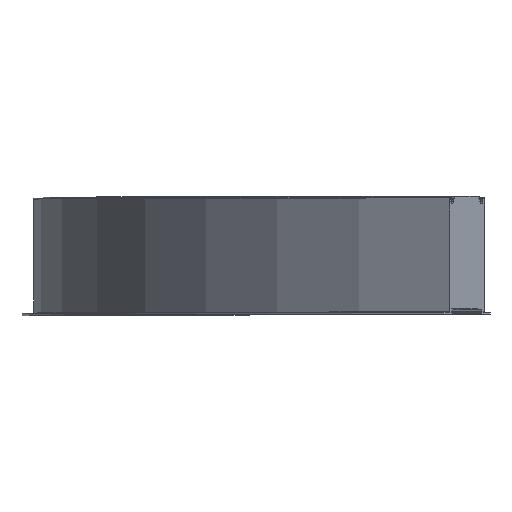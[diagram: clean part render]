
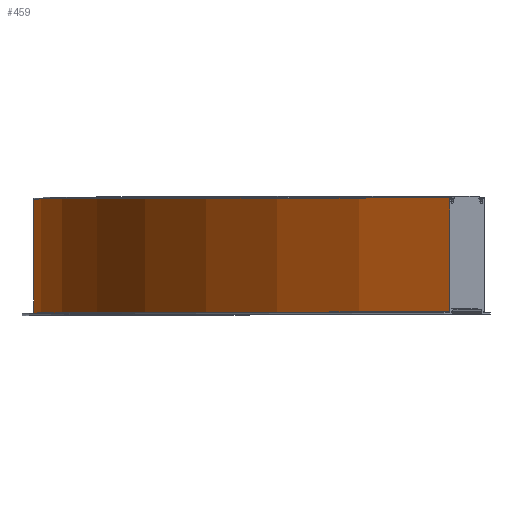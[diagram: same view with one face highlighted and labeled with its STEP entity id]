
A CAD part, top view. The second image highlights one B-rep face of the part: STEP entity #459.
In plain terms, the highlighted cylindrical face has radius 567.252 mm (diameter 1134.5 mm), a partial arc.
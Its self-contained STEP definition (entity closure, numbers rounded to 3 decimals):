
#19 = DIRECTION ( 'NONE',  ( 0., -1., 0. ) ) ;
#28 = CARTESIAN_POINT ( 'NONE',  ( -23.5, 79.5, 0. ) ) ;
#71 = CYLINDRICAL_SURFACE ( 'NONE', #189, 567.252 ) ;
#103 = DIRECTION ( 'NONE',  ( 0., -1., 0. ) ) ;
#132 = CIRCLE ( 'NONE', #905, 567.252 ) ;
#138 = EDGE_CURVE ( 'NONE', #729, #1705, #1887, .T. ) ;
#168 = ORIENTED_EDGE ( 'NONE', *, *, #1307, .F. ) ;
#181 = VECTOR ( 'NONE', #19, 1000. ) ;
#189 = AXIS2_PLACEMENT_3D ( 'NONE', #722, #1149, #1314 ) ;
#218 = VERTEX_POINT ( 'NONE', #1909 ) ;
#220 = ORIENTED_EDGE ( 'NONE', *, *, #138, .T. ) ;
#250 = EDGE_CURVE ( 'NONE', #1705, #218, #132, .T. ) ;
#252 = CARTESIAN_POINT ( 'NONE',  ( -23.5, 1.8, 0. ) ) ;
#405 = DIRECTION ( 'NONE',  ( -1., 0., 0. ) ) ;
#423 = LINE ( 'NONE', #1192, #181 ) ;
#459 = ADVANCED_FACE ( 'NONE', ( #1695 ), #71, .T. ) ;
#550 = EDGE_CURVE ( 'NONE', #729, #1417, #953, .T. ) ;
#572 = CARTESIAN_POINT ( 'NONE',  ( 260.126, 79.5, 491.255 ) ) ;
#722 = CARTESIAN_POINT ( 'NONE',  ( 543.752, 0., 0. ) ) ;
#729 = VERTEX_POINT ( 'NONE', #28 ) ;
#905 = AXIS2_PLACEMENT_3D ( 'NONE', #1774, #1442, #405 ) ;
#910 = ORIENTED_EDGE ( 'NONE', *, *, #250, .T. ) ;
#953 = CIRCLE ( 'NONE', #1576, 567.252 ) ;
#1127 = CARTESIAN_POINT ( 'NONE',  ( 543.752, 79.5, 0. ) ) ;
#1142 = DIRECTION ( 'NONE',  ( 0., 1., 0. ) ) ;
#1149 = DIRECTION ( 'NONE',  ( 0., 1., 0. ) ) ;
#1165 = CARTESIAN_POINT ( 'NONE',  ( -23.5, 1.8, 0. ) ) ;
#1192 = CARTESIAN_POINT ( 'NONE',  ( 260.126, 1.8, 491.255 ) ) ;
#1218 = EDGE_LOOP ( 'NONE', ( #910, #168, #1502, #220 ) ) ;
#1223 = VECTOR ( 'NONE', #103, 1000. ) ;
#1284 = DIRECTION ( 'NONE',  ( -1., 0., 0. ) ) ;
#1307 = EDGE_CURVE ( 'NONE', #1417, #218, #423, .T. ) ;
#1314 = DIRECTION ( 'NONE',  ( 0., 0., 1. ) ) ;
#1417 = VERTEX_POINT ( 'NONE', #572 ) ;
#1442 = DIRECTION ( 'NONE',  ( 0., 1., 0. ) ) ;
#1502 = ORIENTED_EDGE ( 'NONE', *, *, #550, .F. ) ;
#1576 = AXIS2_PLACEMENT_3D ( 'NONE', #1127, #1142, #1284 ) ;
#1695 = FACE_OUTER_BOUND ( 'NONE', #1218, .T. ) ;
#1705 = VERTEX_POINT ( 'NONE', #1165 ) ;
#1774 = CARTESIAN_POINT ( 'NONE',  ( 543.752, 1.8, 0. ) ) ;
#1887 = LINE ( 'NONE', #252, #1223 ) ;
#1909 = CARTESIAN_POINT ( 'NONE',  ( 260.126, 1.8, 491.255 ) ) ;
